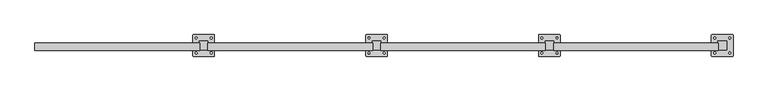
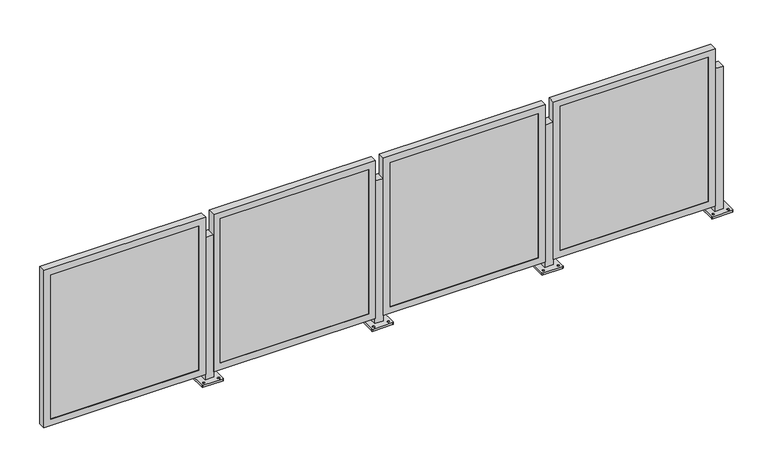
"""IFC4 building model written with IfcOpenShell, lengths in millimetres: railing geometry."""

from ifc_helpers import new_model, si_unit, frame, origin, place, context, project, spatial, polyline, circle_curve, outline, extrude, faceted_brep, source, transform, mapped, element, save
from ifc_brep_helpers import plane_surface, cylinder_surface, revolved_surface, advanced_brep


def railing_22398365(model_context):
    return source(origin(), model_context, "Body", "SolidModel", [
        advanced_brep(
        [(-7190.5258502, -853.9049816, 914.4), (-7190.5258502, -904.7049816, 914.4), (-7139.7258502, -904.7049816, 914.4), (-7139.7258502, -853.9049816, 914.4), (-7228.6258503, -939.6299405, 0.0), (-7228.6258503, -818.9800226, 0.0), (-7225.4508222, -815.8049944, 0.0), (-7104.8008782, -815.8049944, 0.0), (-7101.62585, -818.9800226, 0.0), (-7101.62585, -939.6299405, 0.0), (-7104.8008782, -942.8049687, 0.0), (-7225.4508222, -942.8049687, 0.0), (-7209.5758377, -929.3112362, 0.0), (-7209.5758377, -918.1987238, 0.0), (-7209.5758486, -840.4112318, 0.0), (-7209.5758486, -829.2987502, 0.0), (-7120.6758368, -929.3112347, 0.0), (-7120.6758368, -918.198724, 0.0), (-7120.6758477, -840.4112303, 0.0), (-7120.6758477, -829.2987505, 0.0), (-7190.5258502, -853.9049816, 12.7), (-7190.5258502, -904.7049816, 12.7), (-7139.7258502, -904.7049816, 12.7), (-7139.7258502, -853.9049816, 12.7), (-7228.6258503, -939.6299405, 12.7), (-7225.4508222, -942.8049687, 12.7), (-7104.8008782, -942.8049687, 12.7), (-7101.62585, -939.6299405, 12.7), (-7101.62585, -818.9800226, 12.7), (-7104.8008782, -815.8049944, 12.7), (-7225.4508222, -815.8049944, 12.7), (-7228.6258503, -818.9800226, 12.7), (-7209.5758377, -929.3112362, 12.7), (-7209.5758377, -918.1987238, 12.7), (-7209.5758486, -840.4112318, 12.7), (-7209.5758486, -829.2987502, 12.7), (-7120.6758368, -929.3112347, 12.7), (-7120.6758368, -918.198724, 12.7), (-7120.6758477, -840.4112303, 12.7), (-7120.6758477, -829.2987505, 12.7)],
        [
            (0, 1),
            (1, 2),
            (2, 3),
            (3, 0),
            (4, 5),
            (5, 6, circle_curve(frame((-7225.4508222, -818.9800226, 0.0), z_axis=(0.0, 0.0, -1.0), x_axis=(0.0, 1.0, 0.0)), 3.1750282)),
            (6, 7),
            (7, 8, circle_curve(frame((-7104.8008782, -818.9800226, 0.0), z_axis=(0.0, 0.0, -1.0), x_axis=(0.0, 1.0, 0.0)), 3.1750282)),
            (8, 9),
            (9, 10, circle_curve(frame((-7104.8008782, -939.6299405, 0.0), z_axis=(0.0, 0.0, -1.0), x_axis=(0.0, 1.0, 0.0)), 3.1750282)),
            (10, 11),
            (11, 4, circle_curve(frame((-7225.4508222, -939.6299405, 0.0), z_axis=(0.0, 0.0, -1.0), x_axis=(0.0, 1.0, 0.0)), 3.1750282)),
            (12, 13, circle_curve(frame((-7209.5758377, -923.75498, 0.0), z_axis=(0.0, 0.0, 1.0), x_axis=(0.0, 1.0, 0.0)), 5.5562562)),
            (13, 12, circle_curve(frame((-7209.5758377, -923.75498, 0.0), z_axis=(0.0, 0.0, 1.0), x_axis=(0.0, 1.0, 0.0)), 5.5562562)),
            (14, 15, circle_curve(frame((-7209.5758486, -834.854991, 0.0), z_axis=(0.0, 0.0, 1.0), x_axis=(0.0, 1.0, 0.0)), 5.5562408)),
            (15, 14, circle_curve(frame((-7209.5758486, -834.854991, 0.0), z_axis=(0.0, 0.0, 1.0), x_axis=(0.0, 1.0, 0.0)), 5.5562408)),
            (16, 17, circle_curve(frame((-7120.6758368, -923.7549793, 0.0), z_axis=(0.0, 0.0, 1.0), x_axis=(0.0, 1.0, 0.0)), 5.5562553)),
            (17, 16, circle_curve(frame((-7120.6758368, -923.7549793, 0.0), z_axis=(0.0, 0.0, 1.0), x_axis=(0.0, 1.0, 0.0)), 5.5562553)),
            (18, 19, circle_curve(frame((-7120.6758477, -834.8549904, 0.0), z_axis=(0.0, 0.0, 1.0), x_axis=(0.0, 1.0, 0.0)), 5.5562399)),
            (19, 18, circle_curve(frame((-7120.6758477, -834.8549904, 0.0), z_axis=(0.0, 0.0, 1.0), x_axis=(0.0, 1.0, 0.0)), 5.5562399)),
            (0, 20),
            (20, 21),
            (21, 1),
            (21, 22),
            (22, 2),
            (22, 23),
            (23, 3),
            (23, 20),
            (24, 25, circle_curve(frame((-7225.4508222, -939.6299405, 12.7), z_axis=(0.0, 0.0, 1.0), x_axis=(0.0, 1.0, 0.0)), 3.1750282)),
            (25, 26),
            (26, 27, circle_curve(frame((-7104.8008782, -939.6299405, 12.7), z_axis=(0.0, 0.0, 1.0), x_axis=(0.0, 1.0, 0.0)), 3.1750282)),
            (27, 28),
            (28, 29, circle_curve(frame((-7104.8008782, -818.9800226, 12.7), z_axis=(0.0, 0.0, 1.0), x_axis=(0.0, 1.0, 0.0)), 3.1750282)),
            (29, 30),
            (30, 31, circle_curve(frame((-7225.4508222, -818.9800226, 12.7), z_axis=(0.0, 0.0, 1.0), x_axis=(0.0, 1.0, 0.0)), 3.1750282)),
            (31, 24),
            (32, 33, circle_curve(frame((-7209.5758377, -923.75498, 12.7), z_axis=(0.0, 0.0, -1.0), x_axis=(0.0, 1.0, 0.0)), 5.5562562)),
            (33, 32, circle_curve(frame((-7209.5758377, -923.75498, 12.7), z_axis=(0.0, 0.0, -1.0), x_axis=(0.0, 1.0, 0.0)), 5.5562562)),
            (34, 35, circle_curve(frame((-7209.5758486, -834.854991, 12.7), z_axis=(0.0, 0.0, -1.0), x_axis=(0.0, 1.0, 0.0)), 5.5562408)),
            (35, 34, circle_curve(frame((-7209.5758486, -834.854991, 12.7), z_axis=(0.0, 0.0, -1.0), x_axis=(0.0, 1.0, 0.0)), 5.5562408)),
            (36, 37, circle_curve(frame((-7120.6758368, -923.7549793, 12.7), z_axis=(0.0, 0.0, -1.0), x_axis=(0.0, 1.0, 0.0)), 5.5562553)),
            (37, 36, circle_curve(frame((-7120.6758368, -923.7549793, 12.7), z_axis=(0.0, 0.0, -1.0), x_axis=(0.0, 1.0, 0.0)), 5.5562553)),
            (38, 39, circle_curve(frame((-7120.6758477, -834.8549904, 12.7), z_axis=(0.0, 0.0, -1.0), x_axis=(0.0, 1.0, 0.0)), 5.5562399)),
            (39, 38, circle_curve(frame((-7120.6758477, -834.8549904, 12.7), z_axis=(0.0, 0.0, -1.0), x_axis=(0.0, 1.0, 0.0)), 5.5562399)),
            (24, 4),
            (11, 25),
            (10, 26),
            (9, 27),
            (8, 28),
            (7, 29),
            (6, 30),
            (5, 31),
            (32, 12),
            (13, 33),
            (34, 14),
            (15, 35),
            (36, 16),
            (17, 37),
            (38, 18),
            (19, 39),
        ],
        [
            plane_surface(frame((-7190.5258502, -904.7049816, 914.4), z_axis=(0.0, 0.0, 1.0), x_axis=(0.0, -1.0, 0.0))),
            plane_surface(frame((-7190.5258502, -904.7049816, 0.0), z_axis=(0.0, 0.0, -1.0), x_axis=(0.0, 1.0, 0.0))),
            plane_surface(frame((-7190.5258502, -853.9049816, 914.4), z_axis=(-1.0, 0.0, 0.0), x_axis=(0.0, 0.0, -1.0))),
            plane_surface(frame((-7190.5258502, -904.7049816, 914.4), z_axis=(0.0, -1.0, 0.0), x_axis=(0.0, 0.0, -1.0))),
            plane_surface(frame((-7139.7258502, -904.7049816, 914.4), z_axis=(1.0, 0.0, 0.0), x_axis=(0.0, 0.0, -1.0))),
            plane_surface(frame((-7139.7258502, -853.9049816, 914.4), z_axis=(0.0, 1.0, 0.0), x_axis=(0.0, 0.0, -1.0))),
            plane_surface(frame((-7225.4508222, -936.4549124, 12.7), z_axis=(0.0, 0.0, 1.0), x_axis=(-1.0, 0.0, 0.0))),
            cylinder_surface(frame((-7225.4508222, -939.6299405, 0.0), z_axis=(0.0, 0.0, 1.0), x_axis=(0.0, 1.0, 0.0)), 3.1750282),
            plane_surface(frame((-7225.4508222, -942.8049687, 12.7), z_axis=(1.1945386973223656e-12, -1.0, 0.0), x_axis=(0.0, 0.0, -1.0))),
            cylinder_surface(frame((-7104.8008782, -939.6299405, 0.0), z_axis=(0.0, 0.0, 1.0), x_axis=(0.0, 1.0, 0.0)), 3.1750282),
            plane_surface(frame((-7101.62585, -939.6299405, 12.7), z_axis=(1.0, 0.0, 0.0), x_axis=(0.0, 0.0, -1.0))),
            cylinder_surface(frame((-7104.8008782, -818.9800226, 0.0), z_axis=(0.0, 0.0, 1.0), x_axis=(0.0, 1.0, 0.0)), 3.1750282),
            plane_surface(frame((-7104.8008782, -815.8049944, 12.7), z_axis=(-1.1946088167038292e-12, 1.0, 0.0), x_axis=(0.0, 0.0, -1.0))),
            cylinder_surface(frame((-7225.4508222, -818.9800226, 0.0), z_axis=(0.0, 0.0, 1.0), x_axis=(0.0, 1.0, 0.0)), 3.1750282),
            plane_surface(frame((-7228.6258503, -818.9800226, 12.7), z_axis=(-1.0, 0.0, 0.0), x_axis=(0.0, 0.0, -1.0))),
            revolved_surface(polyline([(-7209.5758377, -918.1987238, 0.0), (-7209.5758377, -918.1987238, 12.7)]), (-7209.5758377, -923.75498, 0.0), (0.0, 0.0, -1.0)),
            revolved_surface(polyline([(-7209.5758486, -829.2987502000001, 0.0), (-7209.5758486, -829.2987502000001, 12.7)]), (-7209.5758486, -834.854991, 0.0), (0.0, 0.0, -1.0)),
            revolved_surface(polyline([(-7120.6758368, -918.198724, 0.0), (-7120.6758368, -918.198724, 12.7)]), (-7120.6758368, -923.7549793, 0.0), (0.0, 0.0, -1.0)),
            revolved_surface(polyline([(-7120.6758477, -829.2987505, 0.0), (-7120.6758477, -829.2987505, 12.7)]), (-7120.6758477, -834.8549904, 0.0), (0.0, 0.0, -1.0)),
        ],
        [
            (0, [[1, 2, 3, 4]]),
            (1, [[5, 6, 7, 8, 9, 10, 11, 12], [13, 14], [15, 16], [17, 18], [19, 20]]),
            (2, [[-1, 21, 22, 23]]),
            (3, [[-2, -23, 24, 25]]),
            (4, [[-3, -25, 26, 27]]),
            (5, [[-4, -27, 28, -21]]),
            (6, [[29, 30, 31, 32, 33, 34, 35, 36], [-22, -28, -26, -24], [37, 38], [39, 40], [41, 42], [43, 44]]),
            (7, [[-29, 45, -12, 46]]),
            (8, [[-30, -46, -11, 47]]),
            (9, [[-31, -47, -10, 48]]),
            (10, [[-32, -48, -9, 49]]),
            (11, [[-33, -49, -8, 50]]),
            (12, [[-34, -50, -7, 51]]),
            (13, [[-35, -51, -6, 52]]),
            (14, [[-36, -52, -5, -45]]),
            (15, [[-37, 53, -14, 54]]),
            (15, [[-38, -54, -13, -53]]),
            (16, [[-39, 55, -16, 56]]),
            (16, [[-40, -56, -15, -55]]),
            (17, [[-41, 57, -18, 58]]),
            (17, [[-42, -58, -17, -57]]),
            (18, [[-43, 59, -20, 60]]),
            (18, [[-44, -60, -19, -59]]),
        ],
    ),
        faceted_brep([(-8156.9303036, -907.4481816, 47.625), (-7188.5553036, -907.4481816, 47.625), (-7188.5553036, -907.4481816, 1044.575), (-8156.9303036, -907.4481816, 1044.575), (-8115.6553036, -907.4481816, 1003.3), (-7229.8303036, -907.4481816, 1003.3), (-7229.8303036, -907.4481816, 88.9), (-8115.6553036, -907.4481816, 88.9), (-8115.6553036, -904.7049816, 1003.3), (-8115.6553036, -904.7049816, 88.9), (-8156.9303036, -863.574885, 1044.575), (-8156.9303036, -863.574885, 47.625), (-8153.7553036, -863.574885, 1041.4), (-8153.7553036, -904.7049816, 1041.4), (-8153.7553036, -904.7049816, 50.8), (-8153.7553036, -863.574885, 50.8), (-7229.8303036, -904.7049816, 88.9), (-7188.5553036, -863.574885, 47.625), (-7191.7303036, -904.7049816, 50.8), (-7191.7303036, -863.574885, 50.8), (-7229.8303036, -904.7049816, 1003.3), (-7188.5553036, -863.574885, 1044.575), (-7191.7303036, -904.7049816, 1041.4), (-7191.7303036, -863.574885, 1041.4)], [[[0, 1, 2, 3], [4, 5, 6, 7]], [[8, 4, 7, 9]], [[3, 10, 11, 0]], [[12, 13, 14, 15]], [[9, 7, 6, 16]], [[0, 11, 17, 1]], [[15, 14, 18, 19]], [[16, 6, 5, 20]], [[1, 17, 21, 2]], [[19, 18, 22, 23]], [[20, 5, 4, 8]], [[10, 21, 17, 11], [15, 19, 23, 12]], [[2, 21, 10, 3]], [[13, 22, 18, 14], [9, 16, 20, 8]], [[23, 22, 13, 12]]]),
        extrude(outline(polyline([(-8153.7553036, -895.1799816), (-7191.7303036, -895.1799816), (-7191.7303036, -904.7049816), (-8153.7553036, -904.7049816), (-8153.7553036, -895.1799816)])), frame((0.0, 0.0, 50.8), z_axis=(0.0, 0.0, 1.0), x_axis=(1.0, 0.0, 0.0)), (0.0, 0.0, 1.0), 990.6),
        advanced_brep(
        [(-8206.5258502, -853.9049816, 914.4), (-8206.5258502, -904.7049816, 914.4), (-8155.7258502, -904.7049816, 914.4), (-8155.7258502, -853.9049816, 914.4), (-8244.6258503, -939.6299405, 0.0), (-8244.6258503, -818.9800226, 0.0), (-8241.4508222, -815.8049944, 0.0), (-8120.8008782, -815.8049944, 0.0), (-8117.62585, -818.9800226, 0.0), (-8117.62585, -939.6299405, 0.0), (-8120.8008782, -942.8049687, 0.0), (-8241.4508222, -942.8049687, 0.0), (-8225.5758377, -929.3112362, 0.0), (-8225.5758377, -918.1987238, 0.0), (-8225.5758486, -840.4112318, 0.0), (-8225.5758486, -829.2987502, 0.0), (-8136.6758368, -929.3112347, 0.0), (-8136.6758368, -918.198724, 0.0), (-8136.6758477, -840.4112303, 0.0), (-8136.6758477, -829.2987505, 0.0), (-8206.5258502, -853.9049816, 12.7), (-8206.5258502, -904.7049816, 12.7), (-8155.7258502, -904.7049816, 12.7), (-8155.7258502, -853.9049816, 12.7), (-8244.6258503, -939.6299405, 12.7), (-8241.4508222, -942.8049687, 12.7), (-8120.8008782, -942.8049687, 12.7), (-8117.62585, -939.6299405, 12.7), (-8117.62585, -818.9800226, 12.7), (-8120.8008782, -815.8049944, 12.7), (-8241.4508222, -815.8049944, 12.7), (-8244.6258503, -818.9800226, 12.7), (-8225.5758377, -929.3112362, 12.7), (-8225.5758377, -918.1987238, 12.7), (-8225.5758486, -840.4112318, 12.7), (-8225.5758486, -829.2987502, 12.7), (-8136.6758368, -929.3112347, 12.7), (-8136.6758368, -918.198724, 12.7), (-8136.6758477, -840.4112303, 12.7), (-8136.6758477, -829.2987505, 12.7)],
        [
            (0, 1),
            (1, 2),
            (2, 3),
            (3, 0),
            (4, 5),
            (5, 6, circle_curve(frame((-8241.4508222, -818.9800226, 0.0), z_axis=(0.0, 0.0, -1.0), x_axis=(0.0, 1.0, 0.0)), 3.1750282)),
            (6, 7),
            (7, 8, circle_curve(frame((-8120.8008782, -818.9800226, 0.0), z_axis=(0.0, 0.0, -1.0), x_axis=(0.0, 1.0, 0.0)), 3.1750282)),
            (8, 9),
            (9, 10, circle_curve(frame((-8120.8008782, -939.6299405, 0.0), z_axis=(0.0, 0.0, -1.0), x_axis=(0.0, 1.0, 0.0)), 3.1750282)),
            (10, 11),
            (11, 4, circle_curve(frame((-8241.4508222, -939.6299405, 0.0), z_axis=(0.0, 0.0, -1.0), x_axis=(0.0, 1.0, 0.0)), 3.1750282)),
            (12, 13, circle_curve(frame((-8225.5758377, -923.75498, 0.0), z_axis=(0.0, 0.0, 1.0), x_axis=(0.0, 1.0, 0.0)), 5.5562562)),
            (13, 12, circle_curve(frame((-8225.5758377, -923.75498, 0.0), z_axis=(0.0, 0.0, 1.0), x_axis=(0.0, 1.0, 0.0)), 5.5562562)),
            (14, 15, circle_curve(frame((-8225.5758486, -834.854991, 0.0), z_axis=(0.0, 0.0, 1.0), x_axis=(0.0, 1.0, 0.0)), 5.5562408)),
            (15, 14, circle_curve(frame((-8225.5758486, -834.854991, 0.0), z_axis=(0.0, 0.0, 1.0), x_axis=(0.0, 1.0, 0.0)), 5.5562408)),
            (16, 17, circle_curve(frame((-8136.6758368, -923.7549793, 0.0), z_axis=(0.0, 0.0, 1.0), x_axis=(0.0, 1.0, 0.0)), 5.5562553)),
            (17, 16, circle_curve(frame((-8136.6758368, -923.7549793, 0.0), z_axis=(0.0, 0.0, 1.0), x_axis=(0.0, 1.0, 0.0)), 5.5562553)),
            (18, 19, circle_curve(frame((-8136.6758477, -834.8549904, 0.0), z_axis=(0.0, 0.0, 1.0), x_axis=(0.0, 1.0, 0.0)), 5.5562399)),
            (19, 18, circle_curve(frame((-8136.6758477, -834.8549904, 0.0), z_axis=(0.0, 0.0, 1.0), x_axis=(0.0, 1.0, 0.0)), 5.5562399)),
            (0, 20),
            (20, 21),
            (21, 1),
            (21, 22),
            (22, 2),
            (22, 23),
            (23, 3),
            (23, 20),
            (24, 25, circle_curve(frame((-8241.4508222, -939.6299405, 12.7), z_axis=(0.0, 0.0, 1.0), x_axis=(0.0, 1.0, 0.0)), 3.1750282)),
            (25, 26),
            (26, 27, circle_curve(frame((-8120.8008782, -939.6299405, 12.7), z_axis=(0.0, 0.0, 1.0), x_axis=(0.0, 1.0, 0.0)), 3.1750282)),
            (27, 28),
            (28, 29, circle_curve(frame((-8120.8008782, -818.9800226, 12.7), z_axis=(0.0, 0.0, 1.0), x_axis=(0.0, 1.0, 0.0)), 3.1750282)),
            (29, 30),
            (30, 31, circle_curve(frame((-8241.4508222, -818.9800226, 12.7), z_axis=(0.0, 0.0, 1.0), x_axis=(0.0, 1.0, 0.0)), 3.1750282)),
            (31, 24),
            (32, 33, circle_curve(frame((-8225.5758377, -923.75498, 12.7), z_axis=(0.0, 0.0, -1.0), x_axis=(0.0, 1.0, 0.0)), 5.5562562)),
            (33, 32, circle_curve(frame((-8225.5758377, -923.75498, 12.7), z_axis=(0.0, 0.0, -1.0), x_axis=(0.0, 1.0, 0.0)), 5.5562562)),
            (34, 35, circle_curve(frame((-8225.5758486, -834.854991, 12.7), z_axis=(0.0, 0.0, -1.0), x_axis=(0.0, 1.0, 0.0)), 5.5562408)),
            (35, 34, circle_curve(frame((-8225.5758486, -834.854991, 12.7), z_axis=(0.0, 0.0, -1.0), x_axis=(0.0, 1.0, 0.0)), 5.5562408)),
            (36, 37, circle_curve(frame((-8136.6758368, -923.7549793, 12.7), z_axis=(0.0, 0.0, -1.0), x_axis=(0.0, 1.0, 0.0)), 5.5562553)),
            (37, 36, circle_curve(frame((-8136.6758368, -923.7549793, 12.7), z_axis=(0.0, 0.0, -1.0), x_axis=(0.0, 1.0, 0.0)), 5.5562553)),
            (38, 39, circle_curve(frame((-8136.6758477, -834.8549904, 12.7), z_axis=(0.0, 0.0, -1.0), x_axis=(0.0, 1.0, 0.0)), 5.5562399)),
            (39, 38, circle_curve(frame((-8136.6758477, -834.8549904, 12.7), z_axis=(0.0, 0.0, -1.0), x_axis=(0.0, 1.0, 0.0)), 5.5562399)),
            (24, 4),
            (11, 25),
            (10, 26),
            (9, 27),
            (8, 28),
            (7, 29),
            (6, 30),
            (5, 31),
            (32, 12),
            (13, 33),
            (34, 14),
            (15, 35),
            (36, 16),
            (17, 37),
            (38, 18),
            (19, 39),
        ],
        [
            plane_surface(frame((-8206.5258502, -904.7049816, 914.4), z_axis=(0.0, 0.0, 1.0), x_axis=(0.0, -1.0, 0.0))),
            plane_surface(frame((-8206.5258502, -904.7049816, 0.0), z_axis=(0.0, 0.0, -1.0), x_axis=(0.0, 1.0, 0.0))),
            plane_surface(frame((-8206.5258502, -853.9049816, 914.4), z_axis=(-1.0, 0.0, 0.0), x_axis=(0.0, 0.0, -1.0))),
            plane_surface(frame((-8206.5258502, -904.7049816, 914.4), z_axis=(0.0, -1.0, 0.0), x_axis=(0.0, 0.0, -1.0))),
            plane_surface(frame((-8155.7258502, -904.7049816, 914.4), z_axis=(1.0, 0.0, 0.0), x_axis=(0.0, 0.0, -1.0))),
            plane_surface(frame((-8155.7258502, -853.9049816, 914.4), z_axis=(0.0, 1.0, 0.0), x_axis=(0.0, 0.0, -1.0))),
            plane_surface(frame((-8241.4508222, -936.4549124, 12.7), z_axis=(0.0, 0.0, 1.0), x_axis=(-1.0, 0.0, 0.0))),
            cylinder_surface(frame((-8241.4508222, -939.6299405, 0.0), z_axis=(0.0, 0.0, 1.0), x_axis=(0.0, 1.0, 0.0)), 3.1750282),
            plane_surface(frame((-8241.4508222, -942.8049687, 12.7), z_axis=(1.1945386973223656e-12, -1.0, 0.0), x_axis=(0.0, 0.0, -1.0))),
            cylinder_surface(frame((-8120.8008782, -939.6299405, 0.0), z_axis=(0.0, 0.0, 1.0), x_axis=(0.0, 1.0, 0.0)), 3.1750282),
            plane_surface(frame((-8117.62585, -939.6299405, 12.7), z_axis=(1.0, 0.0, 0.0), x_axis=(0.0, 0.0, -1.0))),
            cylinder_surface(frame((-8120.8008782, -818.9800226, 0.0), z_axis=(0.0, 0.0, 1.0), x_axis=(0.0, 1.0, 0.0)), 3.1750282),
            plane_surface(frame((-8120.8008782, -815.8049944, 12.7), z_axis=(-1.1946088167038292e-12, 1.0, 0.0), x_axis=(0.0, 0.0, -1.0))),
            cylinder_surface(frame((-8241.4508222, -818.9800226, 0.0), z_axis=(0.0, 0.0, 1.0), x_axis=(0.0, 1.0, 0.0)), 3.1750282),
            plane_surface(frame((-8244.6258503, -818.9800226, 12.7), z_axis=(-1.0, 0.0, 0.0), x_axis=(0.0, 0.0, -1.0))),
            revolved_surface(polyline([(-8225.5758377, -918.1987238, 0.0), (-8225.5758377, -918.1987238, 12.7)]), (-8225.5758377, -923.75498, 0.0), (0.0, 0.0, -1.0)),
            revolved_surface(polyline([(-8225.5758486, -829.2987502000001, 0.0), (-8225.5758486, -829.2987502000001, 12.7)]), (-8225.5758486, -834.854991, 0.0), (0.0, 0.0, -1.0)),
            revolved_surface(polyline([(-8136.6758368, -918.198724, 0.0), (-8136.6758368, -918.198724, 12.7)]), (-8136.6758368, -923.7549793, 0.0), (0.0, 0.0, -1.0)),
            revolved_surface(polyline([(-8136.6758477, -829.2987505, 0.0), (-8136.6758477, -829.2987505, 12.7)]), (-8136.6758477, -834.8549904, 0.0), (0.0, 0.0, -1.0)),
        ],
        [
            (0, [[1, 2, 3, 4]]),
            (1, [[5, 6, 7, 8, 9, 10, 11, 12], [13, 14], [15, 16], [17, 18], [19, 20]]),
            (2, [[-1, 21, 22, 23]]),
            (3, [[-2, -23, 24, 25]]),
            (4, [[-3, -25, 26, 27]]),
            (5, [[-4, -27, 28, -21]]),
            (6, [[29, 30, 31, 32, 33, 34, 35, 36], [-22, -28, -26, -24], [37, 38], [39, 40], [41, 42], [43, 44]]),
            (7, [[-29, 45, -12, 46]]),
            (8, [[-30, -46, -11, 47]]),
            (9, [[-31, -47, -10, 48]]),
            (10, [[-32, -48, -9, 49]]),
            (11, [[-33, -49, -8, 50]]),
            (12, [[-34, -50, -7, 51]]),
            (13, [[-35, -51, -6, 52]]),
            (14, [[-36, -52, -5, -45]]),
            (15, [[-37, 53, -14, 54]]),
            (15, [[-38, -54, -13, -53]]),
            (16, [[-39, 55, -16, 56]]),
            (16, [[-40, -56, -15, -55]]),
            (17, [[-41, 57, -18, 58]]),
            (17, [[-42, -58, -17, -57]]),
            (18, [[-43, 59, -20, 60]]),
            (18, [[-44, -60, -19, -59]]),
        ],
    ),
        faceted_brep([(-9172.9303036, -907.4481816, 47.625), (-8204.5553036, -907.4481816, 47.625), (-8204.5553036, -907.4481816, 1044.575), (-9172.9303036, -907.4481816, 1044.575), (-9131.6553036, -907.4481816, 1003.3), (-8245.8303036, -907.4481816, 1003.3), (-8245.8303036, -907.4481816, 88.9), (-9131.6553036, -907.4481816, 88.9), (-9131.6553036, -904.7049816, 1003.3), (-9131.6553036, -904.7049816, 88.9), (-9172.9303036, -863.574885, 1044.575), (-9172.9303036, -863.574885, 47.625), (-9169.7553036, -863.574885, 1041.4), (-9169.7553036, -904.7049816, 1041.4), (-9169.7553036, -904.7049816, 50.8), (-9169.7553036, -863.574885, 50.8), (-8245.8303036, -904.7049816, 88.9), (-8204.5553036, -863.574885, 47.625), (-8207.7303036, -904.7049816, 50.8), (-8207.7303036, -863.574885, 50.8), (-8245.8303036, -904.7049816, 1003.3), (-8204.5553036, -863.574885, 1044.575), (-8207.7303036, -904.7049816, 1041.4), (-8207.7303036, -863.574885, 1041.4)], [[[0, 1, 2, 3], [4, 5, 6, 7]], [[8, 4, 7, 9]], [[3, 10, 11, 0]], [[12, 13, 14, 15]], [[9, 7, 6, 16]], [[0, 11, 17, 1]], [[15, 14, 18, 19]], [[16, 6, 5, 20]], [[1, 17, 21, 2]], [[19, 18, 22, 23]], [[20, 5, 4, 8]], [[10, 21, 17, 11], [15, 19, 23, 12]], [[2, 21, 10, 3]], [[13, 22, 18, 14], [9, 16, 20, 8]], [[23, 22, 13, 12]]]),
        extrude(outline(polyline([(-9169.7553036, -895.1799816), (-8207.7303036, -895.1799816), (-8207.7303036, -904.7049816), (-9169.7553036, -904.7049816), (-9169.7553036, -895.1799816)])), frame((0.0, 0.0, 50.8), z_axis=(0.0, 0.0, 1.0), x_axis=(1.0, 0.0, 0.0)), (0.0, 0.0, 1.0), 990.6),
        advanced_brep(
        [(-9222.5258502, -853.9049816, 914.4), (-9222.5258502, -904.7049816, 914.4), (-9171.7258502, -904.7049816, 914.4), (-9171.7258502, -853.9049816, 914.4), (-9260.6258503, -939.6299405, 0.0), (-9260.6258503, -818.9800226, 0.0), (-9257.4508222, -815.8049944, 0.0), (-9136.8008782, -815.8049944, 0.0), (-9133.62585, -818.9800226, 0.0), (-9133.62585, -939.6299405, 0.0), (-9136.8008782, -942.8049687, 0.0), (-9257.4508222, -942.8049687, 0.0), (-9241.5758377, -929.3112362, 0.0), (-9241.5758377, -918.1987238, 0.0), (-9241.5758486, -840.4112318, 0.0), (-9241.5758486, -829.2987502, 0.0), (-9152.6758368, -929.3112347, 0.0), (-9152.6758368, -918.198724, 0.0), (-9152.6758477, -840.4112303, 0.0), (-9152.6758477, -829.2987505, 0.0), (-9222.5258502, -853.9049816, 12.7), (-9222.5258502, -904.7049816, 12.7), (-9171.7258502, -904.7049816, 12.7), (-9171.7258502, -853.9049816, 12.7), (-9260.6258503, -939.6299405, 12.7), (-9257.4508222, -942.8049687, 12.7), (-9136.8008782, -942.8049687, 12.7), (-9133.62585, -939.6299405, 12.7), (-9133.62585, -818.9800226, 12.7), (-9136.8008782, -815.8049944, 12.7), (-9257.4508222, -815.8049944, 12.7), (-9260.6258503, -818.9800226, 12.7), (-9241.5758377, -929.3112362, 12.7), (-9241.5758377, -918.1987238, 12.7), (-9241.5758486, -840.4112318, 12.7), (-9241.5758486, -829.2987502, 12.7), (-9152.6758368, -929.3112347, 12.7), (-9152.6758368, -918.198724, 12.7), (-9152.6758477, -840.4112303, 12.7), (-9152.6758477, -829.2987505, 12.7)],
        [
            (0, 1),
            (1, 2),
            (2, 3),
            (3, 0),
            (4, 5),
            (5, 6, circle_curve(frame((-9257.4508222, -818.9800226, 0.0), z_axis=(0.0, 0.0, -1.0), x_axis=(0.0, 1.0, 0.0)), 3.1750282)),
            (6, 7),
            (7, 8, circle_curve(frame((-9136.8008782, -818.9800226, 0.0), z_axis=(0.0, 0.0, -1.0), x_axis=(0.0, 1.0, 0.0)), 3.1750282)),
            (8, 9),
            (9, 10, circle_curve(frame((-9136.8008782, -939.6299405, 0.0), z_axis=(0.0, 0.0, -1.0), x_axis=(0.0, 1.0, 0.0)), 3.1750282)),
            (10, 11),
            (11, 4, circle_curve(frame((-9257.4508222, -939.6299405, 0.0), z_axis=(0.0, 0.0, -1.0), x_axis=(0.0, 1.0, 0.0)), 3.1750282)),
            (12, 13, circle_curve(frame((-9241.5758377, -923.75498, 0.0), z_axis=(0.0, 0.0, 1.0), x_axis=(0.0, 1.0, 0.0)), 5.5562562)),
            (13, 12, circle_curve(frame((-9241.5758377, -923.75498, 0.0), z_axis=(0.0, 0.0, 1.0), x_axis=(0.0, 1.0, 0.0)), 5.5562562)),
            (14, 15, circle_curve(frame((-9241.5758486, -834.854991, 0.0), z_axis=(0.0, 0.0, 1.0), x_axis=(0.0, 1.0, 0.0)), 5.5562408)),
            (15, 14, circle_curve(frame((-9241.5758486, -834.854991, 0.0), z_axis=(0.0, 0.0, 1.0), x_axis=(0.0, 1.0, 0.0)), 5.5562408)),
            (16, 17, circle_curve(frame((-9152.6758368, -923.7549793, 0.0), z_axis=(0.0, 0.0, 1.0), x_axis=(0.0, 1.0, 0.0)), 5.5562553)),
            (17, 16, circle_curve(frame((-9152.6758368, -923.7549793, 0.0), z_axis=(0.0, 0.0, 1.0), x_axis=(0.0, 1.0, 0.0)), 5.5562553)),
            (18, 19, circle_curve(frame((-9152.6758477, -834.8549904, 0.0), z_axis=(0.0, 0.0, 1.0), x_axis=(0.0, 1.0, 0.0)), 5.5562399)),
            (19, 18, circle_curve(frame((-9152.6758477, -834.8549904, 0.0), z_axis=(0.0, 0.0, 1.0), x_axis=(0.0, 1.0, 0.0)), 5.5562399)),
            (0, 20),
            (20, 21),
            (21, 1),
            (21, 22),
            (22, 2),
            (22, 23),
            (23, 3),
            (23, 20),
            (24, 25, circle_curve(frame((-9257.4508222, -939.6299405, 12.7), z_axis=(0.0, 0.0, 1.0), x_axis=(0.0, 1.0, 0.0)), 3.1750282)),
            (25, 26),
            (26, 27, circle_curve(frame((-9136.8008782, -939.6299405, 12.7), z_axis=(0.0, 0.0, 1.0), x_axis=(0.0, 1.0, 0.0)), 3.1750282)),
            (27, 28),
            (28, 29, circle_curve(frame((-9136.8008782, -818.9800226, 12.7), z_axis=(0.0, 0.0, 1.0), x_axis=(0.0, 1.0, 0.0)), 3.1750282)),
            (29, 30),
            (30, 31, circle_curve(frame((-9257.4508222, -818.9800226, 12.7), z_axis=(0.0, 0.0, 1.0), x_axis=(0.0, 1.0, 0.0)), 3.1750282)),
            (31, 24),
            (32, 33, circle_curve(frame((-9241.5758377, -923.75498, 12.7), z_axis=(0.0, 0.0, -1.0), x_axis=(0.0, 1.0, 0.0)), 5.5562562)),
            (33, 32, circle_curve(frame((-9241.5758377, -923.75498, 12.7), z_axis=(0.0, 0.0, -1.0), x_axis=(0.0, 1.0, 0.0)), 5.5562562)),
            (34, 35, circle_curve(frame((-9241.5758486, -834.854991, 12.7), z_axis=(0.0, 0.0, -1.0), x_axis=(0.0, 1.0, 0.0)), 5.5562408)),
            (35, 34, circle_curve(frame((-9241.5758486, -834.854991, 12.7), z_axis=(0.0, 0.0, -1.0), x_axis=(0.0, 1.0, 0.0)), 5.5562408)),
            (36, 37, circle_curve(frame((-9152.6758368, -923.7549793, 12.7), z_axis=(0.0, 0.0, -1.0), x_axis=(0.0, 1.0, 0.0)), 5.5562553)),
            (37, 36, circle_curve(frame((-9152.6758368, -923.7549793, 12.7), z_axis=(0.0, 0.0, -1.0), x_axis=(0.0, 1.0, 0.0)), 5.5562553)),
            (38, 39, circle_curve(frame((-9152.6758477, -834.8549904, 12.7), z_axis=(0.0, 0.0, -1.0), x_axis=(0.0, 1.0, 0.0)), 5.5562399)),
            (39, 38, circle_curve(frame((-9152.6758477, -834.8549904, 12.7), z_axis=(0.0, 0.0, -1.0), x_axis=(0.0, 1.0, 0.0)), 5.5562399)),
            (24, 4),
            (11, 25),
            (10, 26),
            (9, 27),
            (8, 28),
            (7, 29),
            (6, 30),
            (5, 31),
            (32, 12),
            (13, 33),
            (34, 14),
            (15, 35),
            (36, 16),
            (17, 37),
            (38, 18),
            (19, 39),
        ],
        [
            plane_surface(frame((-9222.5258502, -904.7049816, 914.4), z_axis=(0.0, 0.0, 1.0), x_axis=(0.0, -1.0, 0.0))),
            plane_surface(frame((-9222.5258502, -904.7049816, 0.0), z_axis=(0.0, 0.0, -1.0), x_axis=(0.0, 1.0, 0.0))),
            plane_surface(frame((-9222.5258502, -853.9049816, 914.4), z_axis=(-1.0, 0.0, 0.0), x_axis=(0.0, 0.0, -1.0))),
            plane_surface(frame((-9222.5258502, -904.7049816, 914.4), z_axis=(0.0, -1.0, 0.0), x_axis=(0.0, 0.0, -1.0))),
            plane_surface(frame((-9171.7258502, -904.7049816, 914.4), z_axis=(1.0, 0.0, 0.0), x_axis=(0.0, 0.0, -1.0))),
            plane_surface(frame((-9171.7258502, -853.9049816, 914.4), z_axis=(0.0, 1.0, 0.0), x_axis=(0.0, 0.0, -1.0))),
            plane_surface(frame((-9257.4508222, -936.4549124, 12.7), z_axis=(0.0, 0.0, 1.0), x_axis=(-1.0, 0.0, 0.0))),
            cylinder_surface(frame((-9257.4508222, -939.6299405, 0.0), z_axis=(0.0, 0.0, 1.0), x_axis=(0.0, 1.0, 0.0)), 3.1750282),
            plane_surface(frame((-9257.4508222, -942.8049687, 12.7), z_axis=(1.1945386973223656e-12, -1.0, 0.0), x_axis=(0.0, 0.0, -1.0))),
            cylinder_surface(frame((-9136.8008782, -939.6299405, 0.0), z_axis=(0.0, 0.0, 1.0), x_axis=(0.0, 1.0, 0.0)), 3.1750282),
            plane_surface(frame((-9133.62585, -939.6299405, 12.7), z_axis=(1.0, 0.0, 0.0), x_axis=(0.0, 0.0, -1.0))),
            cylinder_surface(frame((-9136.8008782, -818.9800226, 0.0), z_axis=(0.0, 0.0, 1.0), x_axis=(0.0, 1.0, 0.0)), 3.1750282),
            plane_surface(frame((-9136.8008782, -815.8049944, 12.7), z_axis=(-1.1946088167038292e-12, 1.0, 0.0), x_axis=(0.0, 0.0, -1.0))),
            cylinder_surface(frame((-9257.4508222, -818.9800226, 0.0), z_axis=(0.0, 0.0, 1.0), x_axis=(0.0, 1.0, 0.0)), 3.1750282),
            plane_surface(frame((-9260.6258503, -818.9800226, 12.7), z_axis=(-1.0, 0.0, 0.0), x_axis=(0.0, 0.0, -1.0))),
            revolved_surface(polyline([(-9241.5758377, -918.1987238, 0.0), (-9241.5758377, -918.1987238, 12.7)]), (-9241.5758377, -923.75498, 0.0), (0.0, 0.0, -1.0)),
            revolved_surface(polyline([(-9241.5758486, -829.2987502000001, 0.0), (-9241.5758486, -829.2987502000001, 12.7)]), (-9241.5758486, -834.854991, 0.0), (0.0, 0.0, -1.0)),
            revolved_surface(polyline([(-9152.6758368, -918.198724, 0.0), (-9152.6758368, -918.198724, 12.7)]), (-9152.6758368, -923.7549793, 0.0), (0.0, 0.0, -1.0)),
            revolved_surface(polyline([(-9152.6758477, -829.2987505, 0.0), (-9152.6758477, -829.2987505, 12.7)]), (-9152.6758477, -834.8549904, 0.0), (0.0, 0.0, -1.0)),
        ],
        [
            (0, [[1, 2, 3, 4]]),
            (1, [[5, 6, 7, 8, 9, 10, 11, 12], [13, 14], [15, 16], [17, 18], [19, 20]]),
            (2, [[-1, 21, 22, 23]]),
            (3, [[-2, -23, 24, 25]]),
            (4, [[-3, -25, 26, 27]]),
            (5, [[-4, -27, 28, -21]]),
            (6, [[29, 30, 31, 32, 33, 34, 35, 36], [-22, -28, -26, -24], [37, 38], [39, 40], [41, 42], [43, 44]]),
            (7, [[-29, 45, -12, 46]]),
            (8, [[-30, -46, -11, 47]]),
            (9, [[-31, -47, -10, 48]]),
            (10, [[-32, -48, -9, 49]]),
            (11, [[-33, -49, -8, 50]]),
            (12, [[-34, -50, -7, 51]]),
            (13, [[-35, -51, -6, 52]]),
            (14, [[-36, -52, -5, -45]]),
            (15, [[-37, 53, -14, 54]]),
            (15, [[-38, -54, -13, -53]]),
            (16, [[-39, 55, -16, 56]]),
            (16, [[-40, -56, -15, -55]]),
            (17, [[-41, 57, -18, 58]]),
            (17, [[-42, -58, -17, -57]]),
            (18, [[-43, 59, -20, 60]]),
            (18, [[-44, -60, -19, -59]]),
        ],
    ),
        faceted_brep([(-10188.9303036, -907.4481816, 47.625), (-9220.5553036, -907.4481816, 47.625), (-9220.5553036, -907.4481816, 1044.575), (-10188.9303036, -907.4481816, 1044.575), (-10147.6553036, -907.4481816, 1003.3), (-9261.8303036, -907.4481816, 1003.3), (-9261.8303036, -907.4481816, 88.9), (-10147.6553036, -907.4481816, 88.9), (-10147.6553036, -904.7049816, 1003.3), (-10147.6553036, -904.7049816, 88.9), (-10188.9303036, -863.574885, 1044.575), (-10188.9303036, -863.574885, 47.625), (-10185.7553036, -863.574885, 1041.4), (-10185.7553036, -904.7049816, 1041.4), (-10185.7553036, -904.7049816, 50.8), (-10185.7553036, -863.574885, 50.8), (-9261.8303036, -904.7049816, 88.9), (-9220.5553036, -863.574885, 47.625), (-9223.7303036, -904.7049816, 50.8), (-9223.7303036, -863.574885, 50.8), (-9261.8303036, -904.7049816, 1003.3), (-9220.5553036, -863.574885, 1044.575), (-9223.7303036, -904.7049816, 1041.4), (-9223.7303036, -863.574885, 1041.4)], [[[0, 1, 2, 3], [4, 5, 6, 7]], [[8, 4, 7, 9]], [[3, 10, 11, 0]], [[12, 13, 14, 15]], [[9, 7, 6, 16]], [[0, 11, 17, 1]], [[15, 14, 18, 19]], [[16, 6, 5, 20]], [[1, 17, 21, 2]], [[19, 18, 22, 23]], [[20, 5, 4, 8]], [[10, 21, 17, 11], [15, 19, 23, 12]], [[2, 21, 10, 3]], [[13, 22, 18, 14], [9, 16, 20, 8]], [[23, 22, 13, 12]]]),
        extrude(outline(polyline([(-10185.7553036, -895.1799816), (-9223.7303036, -895.1799816), (-9223.7303036, -904.7049816), (-10185.7553036, -904.7049816), (-10185.7553036, -895.1799816)])), frame((0.0, 0.0, 50.8), z_axis=(0.0, 0.0, 1.0), x_axis=(1.0, 0.0, 0.0)), (0.0, 0.0, 1.0), 990.6),
        advanced_brep(
        [(-10238.5258502, -853.9049816, 914.4), (-10238.5258502, -904.7049816, 914.4), (-10187.7258502, -904.7049816, 914.4), (-10187.7258502, -853.9049816, 914.4), (-10276.6258503, -939.6299405, 0.0), (-10276.6258503, -818.9800226, 0.0), (-10273.4508222, -815.8049944, 0.0), (-10152.8008782, -815.8049944, 0.0), (-10149.62585, -818.9800226, 0.0), (-10149.62585, -939.6299405, 0.0), (-10152.8008782, -942.8049687, 0.0), (-10273.4508222, -942.8049687, 0.0), (-10257.5758377, -929.3112362, 0.0), (-10257.5758377, -918.1987238, 0.0), (-10257.5758486, -840.4112318, 0.0), (-10257.5758486, -829.2987502, 0.0), (-10168.6758368, -929.3112347, 0.0), (-10168.6758368, -918.198724, 0.0), (-10168.6758477, -840.4112303, 0.0), (-10168.6758477, -829.2987505, 0.0), (-10238.5258502, -853.9049816, 12.7), (-10238.5258502, -904.7049816, 12.7), (-10187.7258502, -904.7049816, 12.7), (-10187.7258502, -853.9049816, 12.7), (-10276.6258503, -939.6299405, 12.7), (-10273.4508222, -942.8049687, 12.7), (-10152.8008782, -942.8049687, 12.7), (-10149.62585, -939.6299405, 12.7), (-10149.62585, -818.9800226, 12.7), (-10152.8008782, -815.8049944, 12.7), (-10273.4508222, -815.8049944, 12.7), (-10276.6258503, -818.9800226, 12.7), (-10257.5758377, -929.3112362, 12.7), (-10257.5758377, -918.1987238, 12.7), (-10257.5758486, -840.4112318, 12.7), (-10257.5758486, -829.2987502, 12.7), (-10168.6758368, -929.3112347, 12.7), (-10168.6758368, -918.198724, 12.7), (-10168.6758477, -840.4112303, 12.7), (-10168.6758477, -829.2987505, 12.7)],
        [
            (0, 1),
            (1, 2),
            (2, 3),
            (3, 0),
            (4, 5),
            (5, 6, circle_curve(frame((-10273.4508222, -818.9800226, 0.0), z_axis=(0.0, 0.0, -1.0), x_axis=(0.0, 1.0, 0.0)), 3.1750282)),
            (6, 7),
            (7, 8, circle_curve(frame((-10152.8008782, -818.9800226, 0.0), z_axis=(0.0, 0.0, -1.0), x_axis=(0.0, 1.0, 0.0)), 3.1750282)),
            (8, 9),
            (9, 10, circle_curve(frame((-10152.8008782, -939.6299405, 0.0), z_axis=(0.0, 0.0, -1.0), x_axis=(0.0, 1.0, 0.0)), 3.1750282)),
            (10, 11),
            (11, 4, circle_curve(frame((-10273.4508222, -939.6299405, 0.0), z_axis=(0.0, 0.0, -1.0), x_axis=(0.0, 1.0, 0.0)), 3.1750282)),
            (12, 13, circle_curve(frame((-10257.5758377, -923.75498, 0.0), z_axis=(0.0, 0.0, 1.0), x_axis=(0.0, 1.0, 0.0)), 5.5562562)),
            (13, 12, circle_curve(frame((-10257.5758377, -923.75498, 0.0), z_axis=(0.0, 0.0, 1.0), x_axis=(0.0, 1.0, 0.0)), 5.5562562)),
            (14, 15, circle_curve(frame((-10257.5758486, -834.854991, 0.0), z_axis=(0.0, 0.0, 1.0), x_axis=(0.0, 1.0, 0.0)), 5.5562408)),
            (15, 14, circle_curve(frame((-10257.5758486, -834.854991, 0.0), z_axis=(0.0, 0.0, 1.0), x_axis=(0.0, 1.0, 0.0)), 5.5562408)),
            (16, 17, circle_curve(frame((-10168.6758368, -923.7549793, 0.0), z_axis=(0.0, 0.0, 1.0), x_axis=(0.0, 1.0, 0.0)), 5.5562553)),
            (17, 16, circle_curve(frame((-10168.6758368, -923.7549793, 0.0), z_axis=(0.0, 0.0, 1.0), x_axis=(0.0, 1.0, 0.0)), 5.5562553)),
            (18, 19, circle_curve(frame((-10168.6758477, -834.8549904, 0.0), z_axis=(0.0, 0.0, 1.0), x_axis=(0.0, 1.0, 0.0)), 5.5562399)),
            (19, 18, circle_curve(frame((-10168.6758477, -834.8549904, 0.0), z_axis=(0.0, 0.0, 1.0), x_axis=(0.0, 1.0, 0.0)), 5.5562399)),
            (0, 20),
            (20, 21),
            (21, 1),
            (21, 22),
            (22, 2),
            (22, 23),
            (23, 3),
            (23, 20),
            (24, 25, circle_curve(frame((-10273.4508222, -939.6299405, 12.7), z_axis=(0.0, 0.0, 1.0), x_axis=(0.0, 1.0, 0.0)), 3.1750282)),
            (25, 26),
            (26, 27, circle_curve(frame((-10152.8008782, -939.6299405, 12.7), z_axis=(0.0, 0.0, 1.0), x_axis=(0.0, 1.0, 0.0)), 3.1750282)),
            (27, 28),
            (28, 29, circle_curve(frame((-10152.8008782, -818.9800226, 12.7), z_axis=(0.0, 0.0, 1.0), x_axis=(0.0, 1.0, 0.0)), 3.1750282)),
            (29, 30),
            (30, 31, circle_curve(frame((-10273.4508222, -818.9800226, 12.7), z_axis=(0.0, 0.0, 1.0), x_axis=(0.0, 1.0, 0.0)), 3.1750282)),
            (31, 24),
            (32, 33, circle_curve(frame((-10257.5758377, -923.75498, 12.7), z_axis=(0.0, 0.0, -1.0), x_axis=(0.0, 1.0, 0.0)), 5.5562562)),
            (33, 32, circle_curve(frame((-10257.5758377, -923.75498, 12.7), z_axis=(0.0, 0.0, -1.0), x_axis=(0.0, 1.0, 0.0)), 5.5562562)),
            (34, 35, circle_curve(frame((-10257.5758486, -834.854991, 12.7), z_axis=(0.0, 0.0, -1.0), x_axis=(0.0, 1.0, 0.0)), 5.5562408)),
            (35, 34, circle_curve(frame((-10257.5758486, -834.854991, 12.7), z_axis=(0.0, 0.0, -1.0), x_axis=(0.0, 1.0, 0.0)), 5.5562408)),
            (36, 37, circle_curve(frame((-10168.6758368, -923.7549793, 12.7), z_axis=(0.0, 0.0, -1.0), x_axis=(0.0, 1.0, 0.0)), 5.5562553)),
            (37, 36, circle_curve(frame((-10168.6758368, -923.7549793, 12.7), z_axis=(0.0, 0.0, -1.0), x_axis=(0.0, 1.0, 0.0)), 5.5562553)),
            (38, 39, circle_curve(frame((-10168.6758477, -834.8549904, 12.7), z_axis=(0.0, 0.0, -1.0), x_axis=(0.0, 1.0, 0.0)), 5.5562399)),
            (39, 38, circle_curve(frame((-10168.6758477, -834.8549904, 12.7), z_axis=(0.0, 0.0, -1.0), x_axis=(0.0, 1.0, 0.0)), 5.5562399)),
            (24, 4),
            (11, 25),
            (10, 26),
            (9, 27),
            (8, 28),
            (7, 29),
            (6, 30),
            (5, 31),
            (32, 12),
            (13, 33),
            (34, 14),
            (15, 35),
            (36, 16),
            (17, 37),
            (38, 18),
            (19, 39),
        ],
        [
            plane_surface(frame((-10238.5258502, -904.7049816, 914.4), z_axis=(0.0, 0.0, 1.0), x_axis=(0.0, -1.0, 0.0))),
            plane_surface(frame((-10238.5258502, -904.7049816, 0.0), z_axis=(0.0, 0.0, -1.0), x_axis=(0.0, 1.0, 0.0))),
            plane_surface(frame((-10238.5258502, -853.9049816, 914.4), z_axis=(-1.0, 0.0, 0.0), x_axis=(0.0, 0.0, -1.0))),
            plane_surface(frame((-10238.5258502, -904.7049816, 914.4), z_axis=(0.0, -1.0, 0.0), x_axis=(0.0, 0.0, -1.0))),
            plane_surface(frame((-10187.7258502, -904.7049816, 914.4), z_axis=(1.0, 0.0, 0.0), x_axis=(0.0, 0.0, -1.0))),
            plane_surface(frame((-10187.7258502, -853.9049816, 914.4), z_axis=(0.0, 1.0, 0.0), x_axis=(0.0, 0.0, -1.0))),
            plane_surface(frame((-10273.4508222, -936.4549124, 12.7), z_axis=(0.0, 0.0, 1.0), x_axis=(-1.0, 0.0, 0.0))),
            cylinder_surface(frame((-10273.4508222, -939.6299405, 0.0), z_axis=(0.0, 0.0, 1.0), x_axis=(0.0, 1.0, 0.0)), 3.1750282),
            plane_surface(frame((-10273.4508222, -942.8049687, 12.7), z_axis=(1.1945386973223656e-12, -1.0, 0.0), x_axis=(0.0, 0.0, -1.0))),
            cylinder_surface(frame((-10152.8008782, -939.6299405, 0.0), z_axis=(0.0, 0.0, 1.0), x_axis=(0.0, 1.0, 0.0)), 3.1750282),
            plane_surface(frame((-10149.62585, -939.6299405, 12.7), z_axis=(1.0, 0.0, 0.0), x_axis=(0.0, 0.0, -1.0))),
            cylinder_surface(frame((-10152.8008782, -818.9800226, 0.0), z_axis=(0.0, 0.0, 1.0), x_axis=(0.0, 1.0, 0.0)), 3.1750282),
            plane_surface(frame((-10152.8008782, -815.8049944, 12.7), z_axis=(-1.1946088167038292e-12, 1.0, 0.0), x_axis=(0.0, 0.0, -1.0))),
            cylinder_surface(frame((-10273.4508222, -818.9800226, 0.0), z_axis=(0.0, 0.0, 1.0), x_axis=(0.0, 1.0, 0.0)), 3.1750282),
            plane_surface(frame((-10276.6258503, -818.9800226, 12.7), z_axis=(-1.0, 0.0, 0.0), x_axis=(0.0, 0.0, -1.0))),
            revolved_surface(polyline([(-10257.5758377, -918.1987238, 0.0), (-10257.5758377, -918.1987238, 12.7)]), (-10257.5758377, -923.75498, 0.0), (0.0, 0.0, -1.0)),
            revolved_surface(polyline([(-10257.5758486, -829.2987502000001, 0.0), (-10257.5758486, -829.2987502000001, 12.7)]), (-10257.5758486, -834.854991, 0.0), (0.0, 0.0, -1.0)),
            revolved_surface(polyline([(-10168.6758368, -918.198724, 0.0), (-10168.6758368, -918.198724, 12.7)]), (-10168.6758368, -923.7549793, 0.0), (0.0, 0.0, -1.0)),
            revolved_surface(polyline([(-10168.6758477, -829.2987505, 0.0), (-10168.6758477, -829.2987505, 12.7)]), (-10168.6758477, -834.8549904, 0.0), (0.0, 0.0, -1.0)),
        ],
        [
            (0, [[1, 2, 3, 4]]),
            (1, [[5, 6, 7, 8, 9, 10, 11, 12], [13, 14], [15, 16], [17, 18], [19, 20]]),
            (2, [[-1, 21, 22, 23]]),
            (3, [[-2, -23, 24, 25]]),
            (4, [[-3, -25, 26, 27]]),
            (5, [[-4, -27, 28, -21]]),
            (6, [[29, 30, 31, 32, 33, 34, 35, 36], [-22, -28, -26, -24], [37, 38], [39, 40], [41, 42], [43, 44]]),
            (7, [[-29, 45, -12, 46]]),
            (8, [[-30, -46, -11, 47]]),
            (9, [[-31, -47, -10, 48]]),
            (10, [[-32, -48, -9, 49]]),
            (11, [[-33, -49, -8, 50]]),
            (12, [[-34, -50, -7, 51]]),
            (13, [[-35, -51, -6, 52]]),
            (14, [[-36, -52, -5, -45]]),
            (15, [[-37, 53, -14, 54]]),
            (15, [[-38, -54, -13, -53]]),
            (16, [[-39, 55, -16, 56]]),
            (16, [[-40, -56, -15, -55]]),
            (17, [[-41, 57, -18, 58]]),
            (17, [[-42, -58, -17, -57]]),
            (18, [[-43, 59, -20, 60]]),
            (18, [[-44, -60, -19, -59]]),
        ],
    ),
        faceted_brep([(-11204.9303036, -907.4481816, 47.625), (-10236.5553036, -907.4481816, 47.625), (-10236.5553036, -907.4481816, 1044.575), (-11204.9303036, -907.4481816, 1044.575), (-11163.6553036, -907.4481816, 1003.3), (-10277.8303036, -907.4481816, 1003.3), (-10277.8303036, -907.4481816, 88.9), (-11163.6553036, -907.4481816, 88.9), (-11163.6553036, -904.7049816, 1003.3), (-11163.6553036, -904.7049816, 88.9), (-11204.9303036, -863.574885, 1044.575), (-11204.9303036, -863.574885, 47.625), (-11201.7553036, -863.574885, 1041.4), (-11201.7553036, -904.7049816, 1041.4), (-11201.7553036, -904.7049816, 50.8), (-11201.7553036, -863.574885, 50.8), (-10277.8303036, -904.7049816, 88.9), (-10236.5553036, -863.574885, 47.625), (-10239.7303036, -904.7049816, 50.8), (-10239.7303036, -863.574885, 50.8), (-10277.8303036, -904.7049816, 1003.3), (-10236.5553036, -863.574885, 1044.575), (-10239.7303036, -904.7049816, 1041.4), (-10239.7303036, -863.574885, 1041.4)], [[[0, 1, 2, 3], [4, 5, 6, 7]], [[8, 4, 7, 9]], [[3, 10, 11, 0]], [[12, 13, 14, 15]], [[9, 7, 6, 16]], [[0, 11, 17, 1]], [[15, 14, 18, 19]], [[16, 6, 5, 20]], [[1, 17, 21, 2]], [[19, 18, 22, 23]], [[20, 5, 4, 8]], [[10, 21, 17, 11], [15, 19, 23, 12]], [[2, 21, 10, 3]], [[13, 22, 18, 14], [9, 16, 20, 8]], [[23, 22, 13, 12]]]),
        extrude(outline(polyline([(-11201.7553036, -895.1799816), (-10239.7303036, -895.1799816), (-10239.7303036, -904.7049816), (-11201.7553036, -904.7049816), (-11201.7553036, -895.1799816)])), frame((0.0, 0.0, 50.8), z_axis=(0.0, 0.0, 1.0), x_axis=(1.0, 0.0, 0.0)), (0.0, 0.0, 1.0), 990.6),
    ])


if __name__ == "__main__":
    model = new_model("IFC4")
    model_context = context("Model", 3, world=origin())
    ifc_project = project(units=[si_unit("LENGTHUNIT", "METRE", prefix="MILLI")], contexts=[model_context])
    site = spatial("IfcSite", under=ifc_project)
    building = spatial("IfcBuilding", under=site)
    placement = place(None, origin())
    railing_shape = railing_22398365(model_context)
    element("IfcRailing", 1, ObjectType="Railing - Amico Architectural - Perforated Railing - 1/4\" Circle - 3/8\" Staggered", at=placement, inside=building, context=model_context, shape_type="MappedRepresentation", body=[
        mapped(railing_shape, transform((0.0, 0.0, 0.0), x_axis=(1.0, 0.0, 0.0), y_axis=(0.0, 1.0, 0.0), z_axis=(0.0, 0.0, 1.0))),
    ])
    save(model, "model.ifc")
